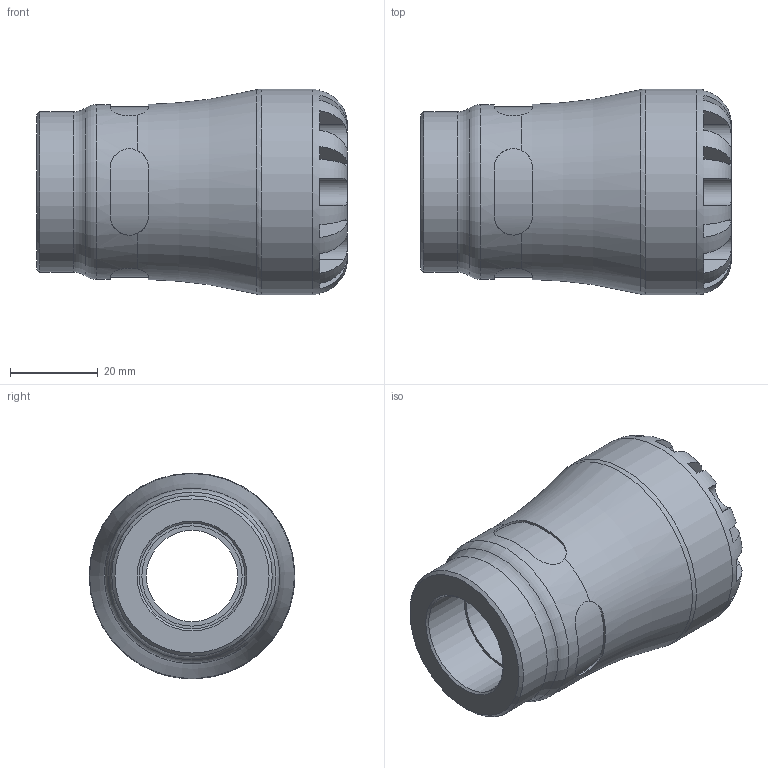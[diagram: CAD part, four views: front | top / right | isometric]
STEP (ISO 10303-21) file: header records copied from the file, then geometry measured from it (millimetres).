
FILE_DESCRIPTION(/* description */ ('PLASSON FEMALE ADAPTOR 25x3/4" SERIES 1'),/* implementation_level */ '2;1');
FILE_NAME(/* name */ 'C:\Dropbox\KIMPROJECTS-Inventor\99-16-3568-Processing\S1\27.01.19\1003G\1003G0025007_1903G0025007.ipt.stp',/* time_stamp */ '2019-01-27T09:12:03+02:00',/* author */ ('KIM'),/* organization */ (''),/* preprocessor_version */ 'ST-DEVELOPER v15.6',/* originating_system */ 'Autodesk Inventor 2015',/* authorisation */ '');
FILE_SCHEMA (('AUTOMOTIVE_DESIGN { 1 0 10303 214 3 1 1 }'));
Length unit declared in the file: millimetre
Products named in the file (1): 1003G0025007_1903G0025007
Bounding box: 71 x 47 x 47 mm (x, y, z)
Volume: 63141.4 mm3; surface area: 17724.6 mm2
Topology: 1 solids, 1 shells, 104 faces, 265 edges, 166 vertices
Faces by surface type: plane 61, cylinder 35, torus 5, cone 3
Full cylindrical faces by diameter (mm): 20.833 x1, 22.911 x1, 24.117 x1, 25 x1, 36.66 x1, 39.95 x1, 47 x1
Entity records: 3870 total; most frequent: CARTESIAN_POINT 1483, ORIENTED_EDGE 492, DIRECTION 478, EDGE_CURVE 246, AXIS2_PLACEMENT_3D 199, VERTEX_POINT 162, EDGE_LOOP 124, FACE_OUTER_BOUND 104
